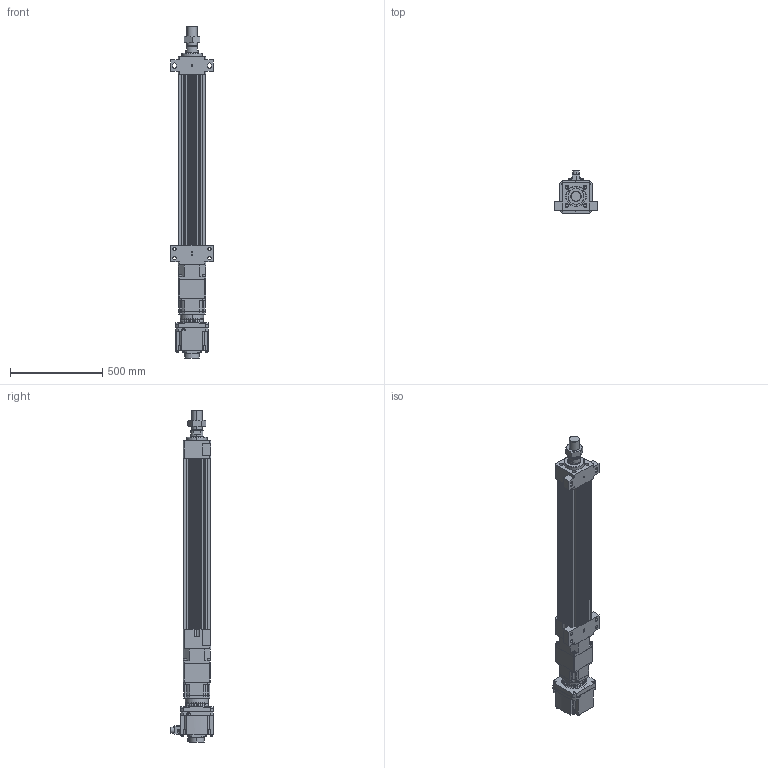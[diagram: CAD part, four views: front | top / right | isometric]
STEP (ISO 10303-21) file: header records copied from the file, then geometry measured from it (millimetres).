
FILE_DESCRIPTION (( 'STEP AP203' ), '1' );
FILE_NAME ('HES150NS(HS)-S650-W035G00-M-FFB.STEP', '2023-02-01T03:20:10', ( 'tms' ), ( '' ), 'SwSTEP 2.0', 'SolidWorks 2013', '' );
FILE_SCHEMA (( 'CONFIG_CONTROL_DESIGN' ));
Length unit declared in the file: millimetre
Products named in the file (9): HES150 ROD M ST650; AB142-003[HG-SR352]; P1301500001; P0403500801; HG-SR352; M56X2.0P; HES150NS(HS)-S650-W035G00-M-FFB; HES150-S650-G142-FFB; AB1421
Assembly tree (8 placements, depth 3):
  HES150NS(HS)-S650-W035G00-M-FFB
    HES150-S650-G142-FFB
    HES150 ROD M ST650
    M56X2.0P
    AB142-003[HG-SR352]
      AB1421
      P1301500001
      P0403500801
    HG-SR352
Bounding box: 230 x 228.85 x 1797.5 mm (x, y, z)
Volume: 20296543.4 mm3; surface area: 2260524 mm2
Topology: 5 solids, 23 shells, 1522 faces, 3951 edges, 2569 vertices
Faces by surface type: cylinder 691, plane 599, cone 150, bspline 76, torus 6
Entity records: 55583 total; most frequent: CARTESIAN_POINT 16843, DIRECTION 8091, ORIENTED_EDGE 7808, EDGE_CURVE 3926, AXIS2_PLACEMENT_3D 3042, VERTEX_POINT 2569, VECTOR 2007, LINE 2007
